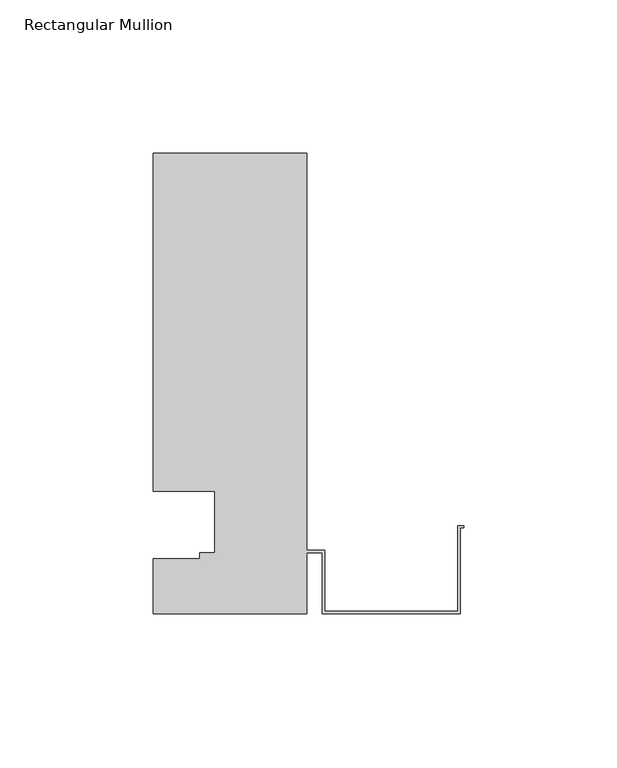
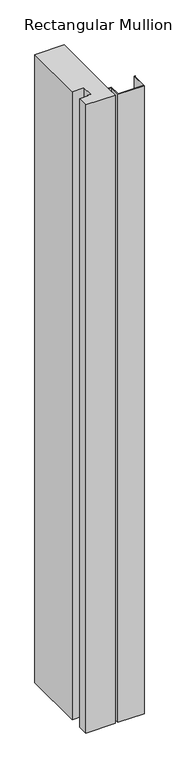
"""IFC4 building model written with IfcOpenShell, lengths in millimetres: member geometry, Rectangular Mullion : TR_CW_ALU_border_TONGUE."""

from ifc_helpers import new_model, si_unit, frame, origin, place, context, project, spatial, polyline, outline, extrude, source, transform, mapped, element, save


def rectangular_mullion_401f5c11(model_context):
    return source(origin(), model_context, "Body", "SweptSolid", [
        extrude(outline(polyline([(-101.0, 0.0), (-101.0, 18.0204111), (-86.0, 18.0204111), (-86.0, 20.0), (-81.0, 20.0), (-81.0, 40.0), (-101.0, 40.0), (-101.0, 150.0), (-51.0, 150.0), (-51.0, 20.8), (-45.2, 20.8), (-45.2, 0.8), (-1.8, 0.8), (-1.8, 28.8), (0.0, 28.8), (0.0, 28.0), (-1.0, 28.0), (-1.0, 0.0), (-46.0, 0.0), (-46.0, 20.0), (-51.0, 20.0), (-51.0, 0.0), (-101.0, 0.0)])), frame((0.0, 0.0, -1132.5), z_axis=(0.0, 0.0, 1.0), x_axis=(1.0, 0.0, 0.0)), (0.0, 0.0, 1.0), 1132.5),
    ])


if __name__ == "__main__":
    model = new_model("IFC4")
    model_context = context("Model", 3, world=origin())
    ifc_project = project(units=[si_unit("LENGTHUNIT", "METRE", prefix="MILLI")], contexts=[model_context])
    site = spatial("IfcSite", under=ifc_project)
    building = spatial("IfcBuilding", under=site)
    placement = place(None, origin())
    rectangular_mullion_shape = rectangular_mullion_401f5c11(model_context)
    element("IfcMember", 1, ObjectType="Rectangular Mullion : TR_CW_ALU_border_TONGUE", at=placement, inside=building, context=model_context, shape_type="MappedRepresentation", body=[
        mapped(rectangular_mullion_shape, transform((0.0, 0.0, 0.0), x_axis=(1.0, 0.0, 0.0), y_axis=(0.0, 1.0, 0.0), z_axis=(0.0, 0.0, 1.0))),
    ])
    save(model, "model.ifc")
